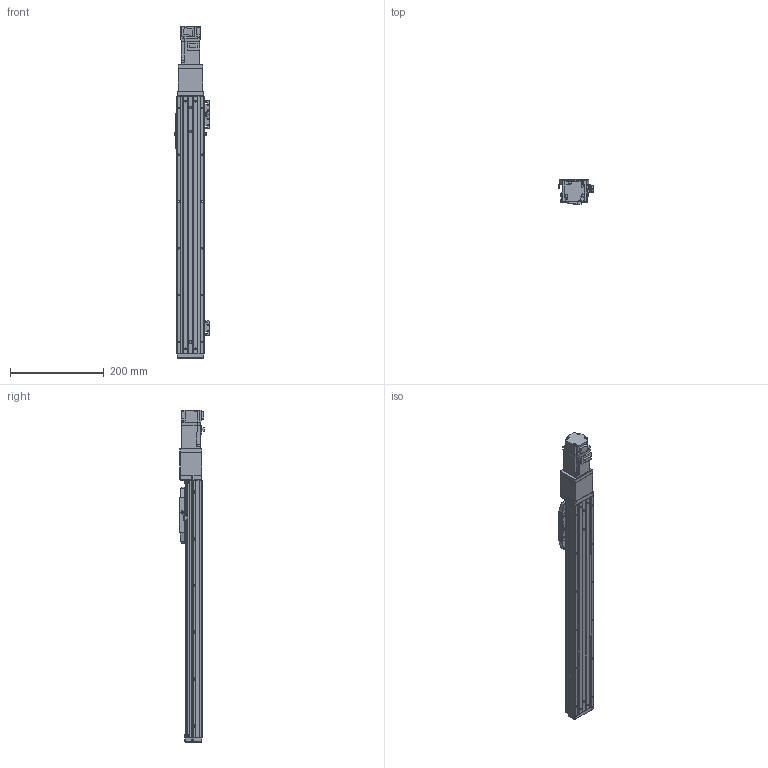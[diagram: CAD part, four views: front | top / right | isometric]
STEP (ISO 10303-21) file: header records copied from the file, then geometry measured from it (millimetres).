
FILE_DESCRIPTION (( 'STEP AP203' ), '1' );
FILE_NAME ('CTHA50-400-BC-M10-C4L.step', '2022-03-19T05:56:22', ( '微软用户' ), ( '微软中国' ), 'SwSTEP 2.0', 'SolidWorks 2020', '' );
FILE_SCHEMA (( 'CONFIG_CONTROL_DESIGN' ));
Length unit declared in the file: millimetre
Products named in the file (20): KTHA50-001_550; CTHA60-017; HG-KR13（三菱）; KTHA50-004; GBT 70.1-M4×12; GBT 70.3-M3℅6; KTHA50-005; CTHA60-016; CTHA50-002; GB¨uT 70.2-M3¡Á6_M3¡Á6; CTHA60-021; CTHA50-030; EE_SX911P_R; CTHA50-027; CTHA50-031; GBT77-2000 M3×3; CTHA50-006-2_CTHA60-006-2; CTHA50-400-BC-M10-C4L; GBT 70.1-M3℅6; CTHA50-013
Assembly tree (59 placements, depth 2):
  CTHA50-400-BC-M10-C4L
    KTHA50-001_550
    KTHA50-004
    KTHA50-005
    GB¨uT 70.2-M3¡Á6_M3¡Á6  x10
    EE_SX911P_R  x3
    GBT77-2000 M3×3  x6
    GBT 70.1-M3℅6  x6
    CTHA60-017  x3
    GBT 70.1-M4×12  x10
    CTHA60-016  x2
    CTHA60-021  x2
    CTHA50-027
    CTHA50-006-2_CTHA60-006-2
    CTHA50-013
    HG-KR13（三菱）
    GBT 70.3-M3℅6  x6
    CTHA50-002
    CTHA50-030  x2
    CTHA50-031
Bounding box: 74.12 x 53.3 x 708.6 mm (x, y, z)
Volume: 1161767.3 mm3; surface area: 315450.5 mm2
Topology: 61 solids, 61 shells, 2416 faces, 5738 edges, 3510 vertices
Faces by surface type: plane 1390, cylinder 544, cone 362, torus 96, sphere 24
Entity records: 39344 total; most frequent: CARTESIAN_POINT 6339, DIRECTION 6300, ORIENTED_EDGE 6044, EDGE_CURVE 3022, VECTOR 2204, LINE 2204, AXIS2_PLACEMENT_3D 2048, VERTEX_POINT 1903
